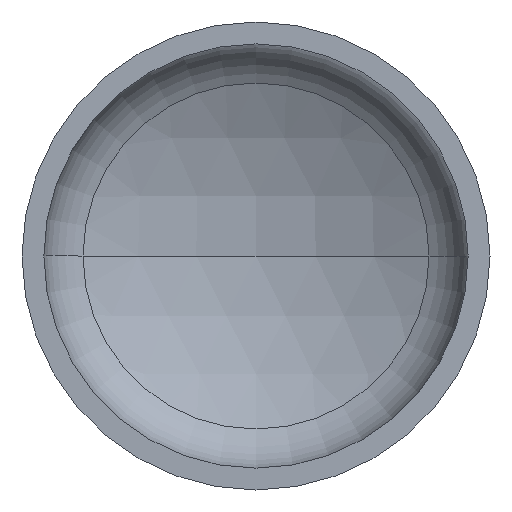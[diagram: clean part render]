
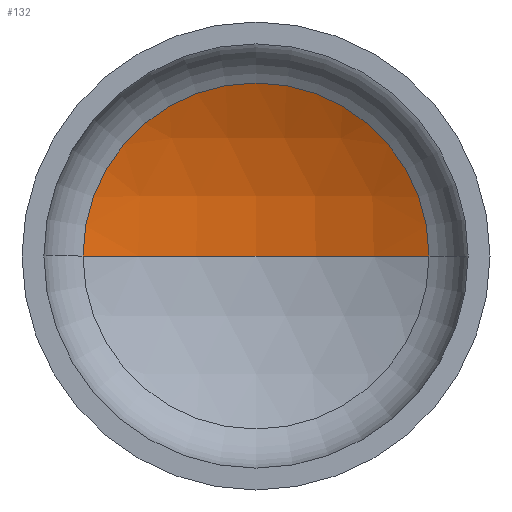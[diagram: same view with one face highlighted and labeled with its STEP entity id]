
A CAD part, front view. The second image highlights one B-rep face of the part: STEP entity #132.
In plain terms, the highlighted spherical face has radius 720 mm.
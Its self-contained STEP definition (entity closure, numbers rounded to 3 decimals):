
#1 = ORIENTED_EDGE ( 'NONE', *, *, #321, .T. ) ;
#3 = VERTEX_POINT ( 'NONE', #245 ) ;
#7 = AXIS2_PLACEMENT_3D ( 'NONE', #175, #329, #201 ) ;
#12 = AXIS2_PLACEMENT_3D ( 'NONE', #144, #298, #173 ) ;
#19 = ORIENTED_EDGE ( 'NONE', *, *, #338, .F. ) ;
#21 = AXIS2_PLACEMENT_3D ( 'NONE', #276, #143, #297 ) ;
#44 = AXIS2_PLACEMENT_3D ( 'NONE', #346, #153, #149 ) ;
#54 = EDGE_LOOP ( 'NONE', ( #19, #1, #126 ) ) ;
#63 = CARTESIAN_POINT ( 'NONE',  ( -332.69, 254.158, 0. ) ) ;
#105 = VERTEX_POINT ( 'NONE', #63 ) ;
#126 = ORIENTED_EDGE ( 'NONE', *, *, #344, .T. ) ;
#128 = VERTEX_POINT ( 'NONE', #184 ) ;
#132 = ADVANCED_FACE ( 'NONE', ( #291 ), #183, .F. ) ;
#143 = DIRECTION ( 'NONE',  ( 0., 0., -1. ) ) ;
#144 = CARTESIAN_POINT ( 'NONE',  ( 0., -384.37, 0. ) ) ;
#145 = CIRCLE ( 'NONE', #12, 720. ) ;
#149 = DIRECTION ( 'NONE',  ( -1., 0., 0. ) ) ;
#153 = DIRECTION ( 'NONE',  ( 0., 0., -1. ) ) ;
#173 = DIRECTION ( 'NONE',  ( 1., 0., 0. ) ) ;
#175 = CARTESIAN_POINT ( 'NONE',  ( 0., 254.158, 0. ) ) ;
#183 = SPHERICAL_SURFACE ( 'NONE', #44, 720. ) ;
#184 = CARTESIAN_POINT ( 'NONE',  ( 0., 335.63, 0. ) ) ;
#201 = DIRECTION ( 'NONE',  ( 1., 0., 0. ) ) ;
#216 = CIRCLE ( 'NONE', #21, 720. ) ;
#245 = CARTESIAN_POINT ( 'NONE',  ( 332.69, 254.158, 0. ) ) ;
#276 = CARTESIAN_POINT ( 'NONE',  ( 0., -384.37, 0. ) ) ;
#291 = FACE_OUTER_BOUND ( 'NONE', #54, .T. ) ;
#297 = DIRECTION ( 'NONE',  ( -1., 0., 0. ) ) ;
#298 = DIRECTION ( 'NONE',  ( 0., 0., 1. ) ) ;
#321 = EDGE_CURVE ( 'NONE', #128, #3, #216, .T. ) ;
#329 = DIRECTION ( 'NONE',  ( 0., -1., 0. ) ) ;
#338 = EDGE_CURVE ( 'NONE', #128, #105, #145, .T. ) ;
#344 = EDGE_CURVE ( 'NONE', #3, #105, #381, .T. ) ;
#346 = CARTESIAN_POINT ( 'NONE',  ( 0., -384.37, 0. ) ) ;
#381 = CIRCLE ( 'NONE', #7, 332.69 ) ;
